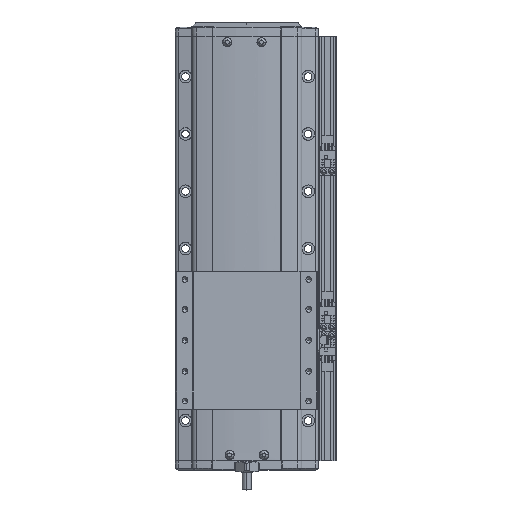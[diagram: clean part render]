
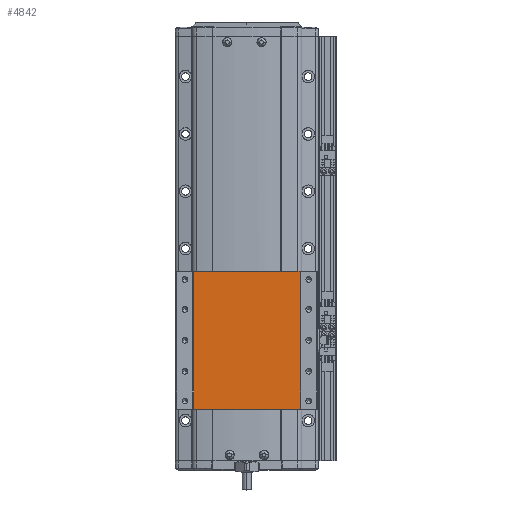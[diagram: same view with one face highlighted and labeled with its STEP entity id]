
A CAD part, top view. The second image highlights one B-rep face of the part: STEP entity #4842.
In plain terms, the highlighted planar face has unit normal (0, 0, 1).
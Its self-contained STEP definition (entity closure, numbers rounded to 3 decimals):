
#4842=ADVANCED_FACE('',(#10789),#10790,.F.);
#10789=FACE_OUTER_BOUND('',#18675,.T.);
#10790=PLANE('',#18676);
#18675=EDGE_LOOP('',(#33524,#33525,#33526,#33527));
#18676=AXIS2_PLACEMENT_3D('',#33528,#33529,#33530);
#33524=ORIENTED_EDGE('',*,*,#49980,.F.);
#33525=ORIENTED_EDGE('',*,*,#49981,.F.);
#33526=ORIENTED_EDGE('',*,*,#49982,.F.);
#33527=ORIENTED_EDGE('',*,*,#49252,.T.);
#33528=CARTESIAN_POINT('',(-300.,-7.778,36.5));
#33529=DIRECTION('',(0.,0.,-1.0));
#33530=DIRECTION('',(-1.0,0.,0.));
#49252=EDGE_CURVE('',#60707,#60705,#60708,.T.);
#49980=EDGE_CURVE('',#61710,#60705,#61711,.T.);
#49981=EDGE_CURVE('',#61712,#61710,#61713,.T.);
#49982=EDGE_CURVE('',#60707,#61712,#61714,.T.);
#60705=VERTEX_POINT('',#76446);
#60707=VERTEX_POINT('',#76448);
#60708=LINE('',#76449,#76450);
#61710=VERTEX_POINT('',#77885);
#61711=LINE('',#77886,#77887);
#61712=VERTEX_POINT('',#77888);
#61713=LINE('',#77889,#77890);
#61714=LINE('',#77891,#77892);
#76446=CARTESIAN_POINT('',(-253.624,112.222,36.5));
#76448=CARTESIAN_POINT('',(-253.624,-7.778,36.5));
#76449=CARTESIAN_POINT('',(-253.624,-7.778,36.5));
#76450=VECTOR('',#88810,10.0);
#77885=CARTESIAN_POINT('',(-346.376,112.222,36.5));
#77886=CARTESIAN_POINT('',(-253.624,112.222,36.5));
#77887=VECTOR('',#89655,10.0);
#77888=CARTESIAN_POINT('',(-346.376,-7.778,36.5));
#77889=CARTESIAN_POINT('',(-346.376,-7.778,36.5));
#77890=VECTOR('',#89656,10.0);
#77891=CARTESIAN_POINT('',(-253.624,-7.778,36.5));
#77892=VECTOR('',#89657,10.0);
#88810=DIRECTION('',(0.,1.0,0.));
#89655=DIRECTION('',(1.0,0.,0.));
#89656=DIRECTION('',(0.,1.0,0.));
#89657=DIRECTION('',(-1.0,0.,0.));
